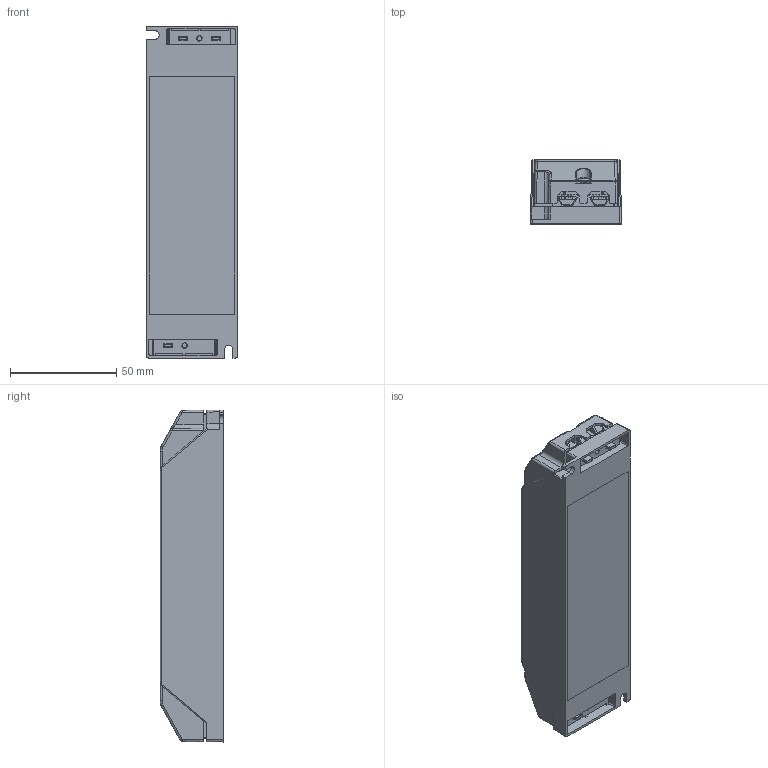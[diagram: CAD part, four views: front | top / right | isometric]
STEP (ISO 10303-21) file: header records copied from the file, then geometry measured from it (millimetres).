
FILE_DESCRIPTION((''),'2;1');
FILE_NAME('KT-125_ASM','2021-06-10T17:15:49',('616179'),(''),'CREO PARAMETRIC BY PTC INC, 2020053','CREO PARAMETRIC BY PTC INC, 2020053','');
FILE_SCHEMA(('CONFIG_CONTROL_DESIGN','SHAPE_APPEARANCE_LAYERS_GROUPS'));
Products named in the file (11): KT-125_SKEL0001; KT-125SG; KT-125XG; KT-125DG; PCBV01; 250_2PIN; KF1001-03P-R0GL-DFT-01B_1LAST_V; KT-125XK; 804-4P; GB8452916; KT-125_ASM
Assembly tree (14 placements, depth 2):
  KT-125_ASM
    KT-125_SKEL0001
    KT-125SG
    KT-125XG
    KT-125DG  x2
    PCBV01
    250_2PIN
    KF1001-03P-R0GL-DFT-01B_1LAST_V
    KT-125XK  x3
    804-4P
    GB8452916  x2
Bounding box: 43 x 30 x 156 mm (x, y, z)
Volume: 50999 mm3; surface area: 75207.7 mm2
Topology: 13 solids, 13 shells, 7346 faces, 20504 edges, 13521 vertices
Faces by surface type: plane 6543, cylinder 360, extrusion 264, sphere 72, bspline 56, cone 33, torus 18
Entity records: 243408 total; most frequent: CARTESIAN_POINT 36243, ORIENTED_EDGE 29908, DIRECTION 25124, PRESENTATION_STYLE_ASSIGNMENT 18618, STYLED_ITEM 18559, CURVE_STYLE 15079, EDGE_CURVE 14954, VECTOR 14046
